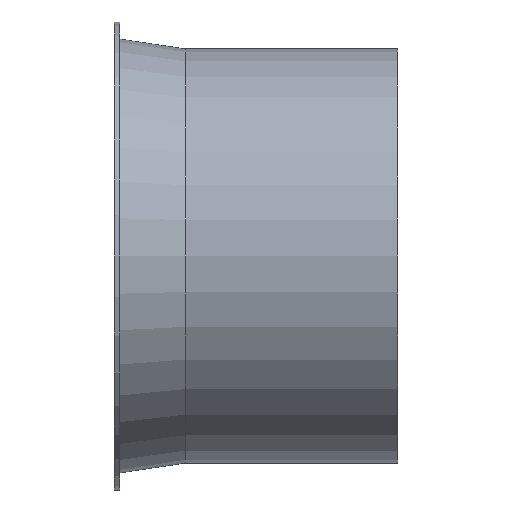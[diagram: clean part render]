
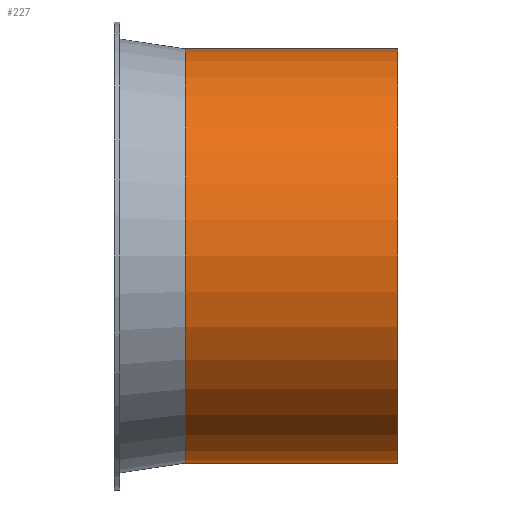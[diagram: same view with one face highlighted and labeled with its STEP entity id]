
A CAD part, front view. The second image highlights one B-rep face of the part: STEP entity #227.
In plain terms, the highlighted cylindrical face has radius 73 mm (diameter 146 mm), a full revolution.
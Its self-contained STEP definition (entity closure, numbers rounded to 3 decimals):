
#132=CARTESIAN_POINT('',(-2.081,46.334,0.0));
#133=VERTEX_POINT('',#132);
#134=CARTESIAN_POINT('',(-2.081,119.334,0.0));
#135=DIRECTION('',(-1.0,0.0,0.0));
#136=DIRECTION('',(0.0,-1.0,0.0));
#137=AXIS2_PLACEMENT_3D('',#134,#135,#136);
#138=CIRCLE('',#137,73.);
#139=EDGE_CURVE('',#133,#133,#138,.T.);
#201=CARTESIAN_POINT('',(72.919,46.334,0.0));
#202=VERTEX_POINT('',#201);
#203=CARTESIAN_POINT('',(72.919,119.334,0.0));
#204=DIRECTION('',(-1.0,0.0,0.0));
#205=DIRECTION('',(0.0,-1.0,0.0));
#206=AXIS2_PLACEMENT_3D('',#203,#204,#205);
#207=CIRCLE('',#206,73.);
#208=EDGE_CURVE('',#202,#202,#207,.T.);
#216=CARTESIAN_POINT('',(35.419,119.334,0.0));
#217=DIRECTION('',(-1.0,0.,0.0));
#218=DIRECTION('',(0.0,-1.0,0.0));
#219=AXIS2_PLACEMENT_3D('',#216,#217,#218);
#220=CYLINDRICAL_SURFACE('',#219,73.);
#221=ORIENTED_EDGE('',*,*,#139,.F.);
#222=EDGE_LOOP('',(#221));
#223=FACE_OUTER_BOUND('',#222,.T.);
#224=ORIENTED_EDGE('',*,*,#208,.T.);
#225=EDGE_LOOP('',(#224));
#226=FACE_BOUND('',#225,.T.);
#227=ADVANCED_FACE('',(#223,#226),#220,.T.);
